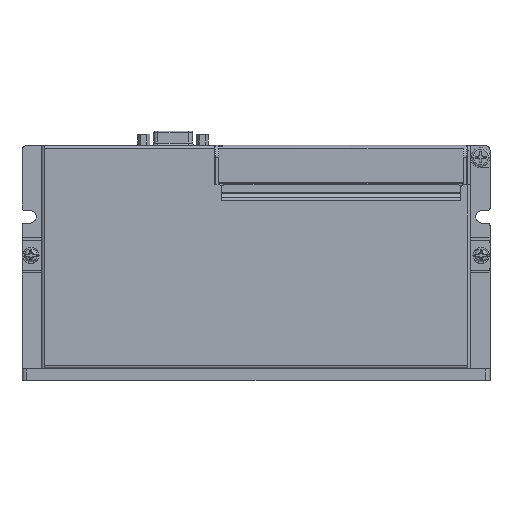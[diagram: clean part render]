
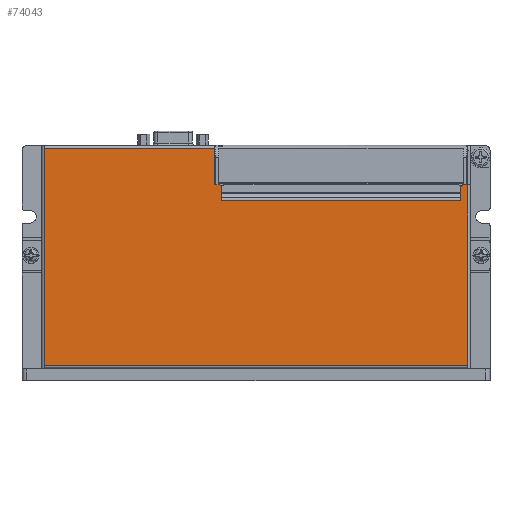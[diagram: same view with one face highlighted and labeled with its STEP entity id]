
A CAD part, top view. The second image highlights one B-rep face of the part: STEP entity #74043.
In plain terms, the highlighted planar face has unit normal (0, 0, 1).
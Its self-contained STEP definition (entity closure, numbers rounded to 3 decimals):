
#69427=DIRECTION('',(0.,-1.,0.));
#69428=VECTOR('',#69427,92.9);
#69429=CARTESIAN_POINT('',(-90.7,45.9,-106.3));
#69430=LINE('',#69429,#69428);
#69491=DIRECTION('',(1.,0.,0.));
#69492=VECTOR('',#69491,180.8);
#69493=CARTESIAN_POINT('',(-90.7,-47.,-106.3));
#69494=LINE('',#69493,#69492);
#70231=DIRECTION('',(0.,1.,0.));
#70232=VECTOR('',#70231,77.25);
#70233=CARTESIAN_POINT('',(90.1,-47.,-106.3));
#70234=LINE('',#70233,#70232);
#70235=CARTESIAN_POINT('',(88.2,29.25,-106.3));
#70236=DIRECTION('',(0.,0.,-1.));
#70237=DIRECTION('',(-1.,0.,0.));
#70238=AXIS2_PLACEMENT_3D('',#70235,#70236,#70237);
#70240=DIRECTION('',(1.,0.,0.));
#70241=VECTOR('',#70240,1.9);
#70242=CARTESIAN_POINT('',(88.2,30.25,-106.3));
#70243=LINE('',#70242,#70241);
#70244=DIRECTION('',(0.,-1.,0.));
#70245=VECTOR('',#70244,15.65);
#70246=CARTESIAN_POINT('',(-18.,45.9,-106.3));
#70247=LINE('',#70246,#70245);
#70248=DIRECTION('',(1.,0.,0.));
#70249=VECTOR('',#70248,2.);
#70250=CARTESIAN_POINT('',(-18.,30.25,-106.3));
#70251=LINE('',#70250,#70249);
#70252=CARTESIAN_POINT('',(-16.,29.25,-106.3));
#70253=DIRECTION('',(0.,0.,-1.));
#70254=DIRECTION('',(0.,1.,0.));
#70255=AXIS2_PLACEMENT_3D('',#70252,#70253,#70254);
#70257=DIRECTION('',(0.,-1.,0.));
#70258=VECTOR('',#70257,5.484);
#70259=CARTESIAN_POINT('',(-15.,29.25,-106.3));
#70260=LINE('',#70259,#70258);
#70261=DIRECTION('',(0.,1.,0.));
#70262=VECTOR('',#70261,5.484);
#70263=CARTESIAN_POINT('',(87.2,23.766,-106.3));
#70264=LINE('',#70263,#70262);
#70313=DIRECTION('',(-1.,0.,0.));
#70314=VECTOR('',#70313,102.2);
#70315=CARTESIAN_POINT('',(87.2,23.766,-106.3));
#70316=LINE('',#70315,#70314);
#70385=DIRECTION('',(-1.,0.,0.));
#70386=VECTOR('',#70385,72.7);
#70387=CARTESIAN_POINT('',(-18.,45.9,-106.3));
#70388=LINE('',#70387,#70386);
#72227=CARTESIAN_POINT('',(-90.7,45.9,-106.3));
#72228=VERTEX_POINT('',#72227);
#72229=CARTESIAN_POINT('',(-90.7,-47.,-106.3));
#72230=VERTEX_POINT('',#72229);
#72245=CARTESIAN_POINT('',(90.1,-47.,-106.3));
#72246=VERTEX_POINT('',#72245);
#72271=CARTESIAN_POINT('',(90.1,30.25,-106.3));
#72272=VERTEX_POINT('',#72271);
#72579=CARTESIAN_POINT('',(87.2,29.25,-106.3));
#72580=CARTESIAN_POINT('',(88.2,30.25,-106.3));
#72581=VERTEX_POINT('',#72579);
#72582=VERTEX_POINT('',#72580);
#72583=CARTESIAN_POINT('',(-18.,45.9,-106.3));
#72584=VERTEX_POINT('',#72583);
#72585=CARTESIAN_POINT('',(-18.,30.25,-106.3));
#72586=VERTEX_POINT('',#72585);
#72587=CARTESIAN_POINT('',(-16.,30.25,-106.3));
#72588=VERTEX_POINT('',#72587);
#72589=CARTESIAN_POINT('',(-15.,29.25,-106.3));
#72590=VERTEX_POINT('',#72589);
#72591=CARTESIAN_POINT('',(-15.,23.766,-106.3));
#72592=VERTEX_POINT('',#72591);
#72593=CARTESIAN_POINT('',(87.2,23.766,-106.3));
#72594=VERTEX_POINT('',#72593);
#74015=CARTESIAN_POINT('',(0.,0.,-106.3));
#74016=DIRECTION('',(0.,0.,1.));
#74017=DIRECTION('',(1.,0.,0.));
#74018=AXIS2_PLACEMENT_3D('',#74015,#74016,#74017);
#74019=PLANE('',#74018);
#74021=ORIENTED_EDGE('',*,*,#74020,.T.);
#74023=ORIENTED_EDGE('',*,*,#74022,.T.);
#74024=ORIENTED_EDGE('',*,*,#74010,.F.);
#74025=ORIENTED_EDGE('',*,*,#73284,.F.);
#74026=ORIENTED_EDGE('',*,*,#73194,.F.);
#74028=ORIENTED_EDGE('',*,*,#74027,.F.);
#74030=ORIENTED_EDGE('',*,*,#74029,.T.);
#74032=ORIENTED_EDGE('',*,*,#74031,.T.);
#74034=ORIENTED_EDGE('',*,*,#74033,.T.);
#74036=ORIENTED_EDGE('',*,*,#74035,.T.);
#74038=ORIENTED_EDGE('',*,*,#74037,.F.);
#74040=ORIENTED_EDGE('',*,*,#74039,.T.);
#74041=EDGE_LOOP('',(#74021,#74023,#74024,#74025,#74026,#74028,#74030,#74032,
#74034,#74036,#74038,#74040));
#74042=FACE_OUTER_BOUND('',#74041,.F.);
#74043=ADVANCED_FACE('',(#74042),#74019,.T.);
#70239=CIRCLE('',#70238,1.);
#70256=CIRCLE('',#70255,1.);
#73194=EDGE_CURVE('',#72228,#72230,#69430,.T.);
#73284=EDGE_CURVE('',#72230,#72246,#69494,.T.);
#74010=EDGE_CURVE('',#72246,#72272,#70234,.T.);
#74020=EDGE_CURVE('',#72581,#72582,#70239,.T.);
#74022=EDGE_CURVE('',#72582,#72272,#70243,.T.);
#74027=EDGE_CURVE('',#72584,#72228,#70388,.T.);
#74029=EDGE_CURVE('',#72584,#72586,#70247,.T.);
#74031=EDGE_CURVE('',#72586,#72588,#70251,.T.);
#74033=EDGE_CURVE('',#72588,#72590,#70256,.T.);
#74035=EDGE_CURVE('',#72590,#72592,#70260,.T.);
#74037=EDGE_CURVE('',#72594,#72592,#70316,.T.);
#74039=EDGE_CURVE('',#72594,#72581,#70264,.T.);
